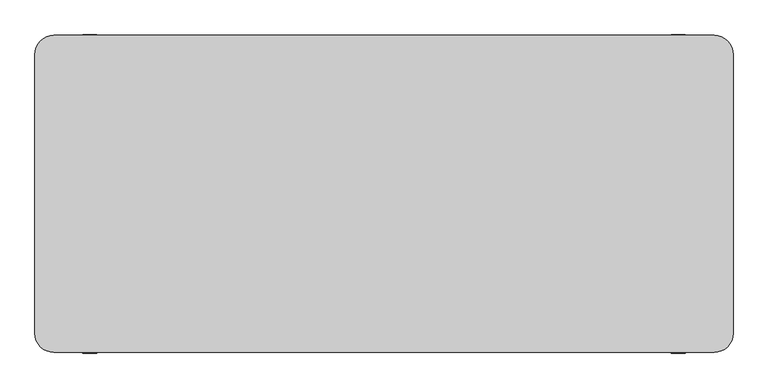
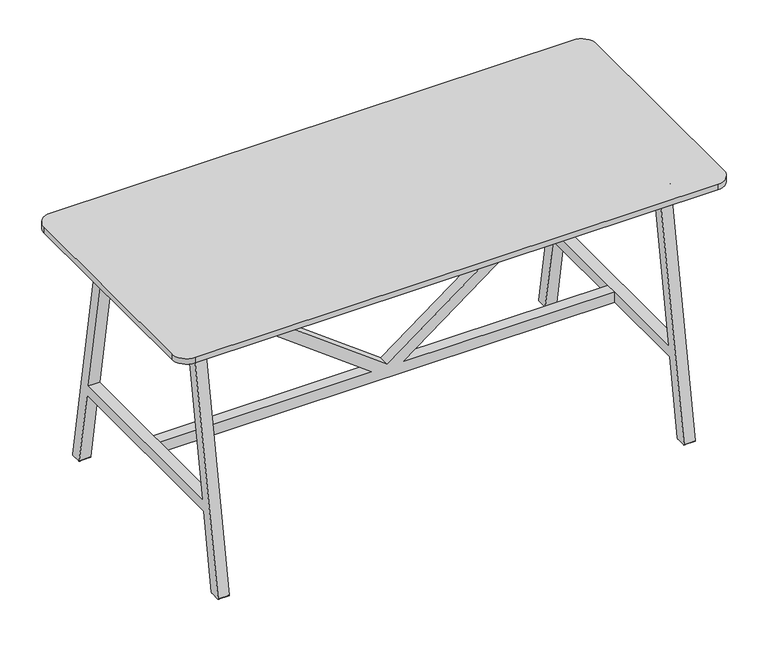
"""IFC4 building model written with IfcOpenShell, lengths in millimetres: furniture geometry, Furniture-Chair-LyndonDesign-Agent_AGE_13 : Furniture-Chair-LyndonDesign-Agent_AGE_13."""

from ifc_helpers import new_model, si_unit, point, frame, frame_2d, origin, place, context, project, spatial, polyline, circle_curve, trimmed, segment, composite_curve, outline, extrude, source, transform, mapped, element, save


def furniture_c897c1bd(model_context):
    return source(origin(), model_context, "Body", "SweptSolid", [
        extrude(outline(composite_curve([segment(trimmed(circle_curve(frame_2d((378.4999922, 1029.9999908)), 44.0000027), [point((422.3178004, 1026.0))], [point((378.4999922, 985.9999881))], False, "CARTESIAN"), True, "CONTINUOUS"), segment(polyline([(378.4999922, 985.9999881), (342.6314965, 985.9999881)]), True, "CONTINUOUS"), segment(trimmed(circle_curve(frame_2d((342.6314965, 973.9754464)), 12.0245417), [point((342.6314965, 985.9999881))], [point((330.628705, 973.2525357))], True, "CARTESIAN"), True, "CONTINUOUS"), segment(polyline([(330.628705, 973.2525357), (501.8254954, 2.3472964)]), True, "CONTINUOUS"), segment(trimmed(circle_curve(frame_2d((499.8558799, 2.0)), 2.0), [point((501.8254954, 2.3472964))], [point((499.8558799, 0.0))], False, "CARTESIAN"), True, "CONTINUOUS"), segment(polyline([(499.8558799, 0.0), (459.882537, 0.0)]), True, "CONTINUOUS"), segment(trimmed(circle_curve(frame_2d((459.882537, 3.9773014)), 3.9773014), [point((459.882537, 0.0))], [point((455.9656598, 3.2866503))], False, "CARTESIAN"), True, "CONTINUOUS"), segment(polyline([(455.9656598, 3.2866503), (401.7074925, 311.000006), (-401.6746968, 311.000006), (-455.9635188, 3.3049865)]), True, "CONTINUOUS"), segment(trimmed(circle_curve(frame_2d((-459.9026756, 4.0)), 4.0), [point((-455.9635188, 3.3049865))], [point((-459.9026756, 0.0))], False, "CARTESIAN"), True, "CONTINUOUS"), segment(polyline([(-459.9026756, 0.0), (-499.8558895, 0.0)]), True, "CONTINUOUS"), segment(trimmed(circle_curve(frame_2d((-499.8558895, 2.0)), 2.0), [point((-499.8558895, 0.0))], [point((-501.825505, 2.3472964))], False, "CARTESIAN"), True, "CONTINUOUS"), segment(polyline([(-501.825505, 2.3472964), (-330.5012459, 973.9754464)]), True, "CONTINUOUS"), segment(trimmed(circle_curve(frame_2d((-342.5257877, 973.9754464)), 12.0245417), [point((-330.5012459, 973.9754464))], [point((-342.5257877, 985.9999881))], True, "CARTESIAN"), True, "CONTINUOUS"), segment(polyline([(-342.5257877, 985.9999881), (-378.3942834, 985.9999881)]), True, "CONTINUOUS"), segment(trimmed(circle_curve(frame_2d((-378.3942834, 1029.9999908)), 44.0000027), [point((-378.3942834, 985.9999881))], [point((-422.2120915, 1026.0))], False, "CARTESIAN"), True, "CONTINUOUS"), segment(polyline([(-422.2120915, 1026.0), (422.3178004, 1026.0)]), True, "CONTINUOUS")], self_intersect=False), holes=[composite_curve([segment(trimmed(circle_curve(frame_2d((-267.8942867, 968.4119913)), 17.5879967), [point((-267.8942867, 985.9999881))], [point((-284.8733265, 973.0000012))], True, "CARTESIAN"), True, "CONTINUOUS"), segment(polyline([(-284.8733265, 973.0000012), (-393.7350289, 355.9999928), (393.7727807, 355.9999928), (284.9790241, 973.0000428)]), True, "CONTINUOUS"), segment(trimmed(circle_curve(frame_2d((267.9999955, 968.4119913)), 17.5879967), [point((284.9790241, 973.0000428))], [point((267.9999955, 985.9999881))], True, "CARTESIAN"), True, "CONTINUOUS"), segment(polyline([(267.9999955, 985.9999881), (-267.8942867, 985.9999881)]), True, "CONTINUOUS")], self_intersect=False)]), frame((-950.0000834, 0.0, 0.0), z_axis=(1.0, 0.0, 0.0), x_axis=(0.0, 1.0, 0.0)), (0.0, 0.0, 1.0), 45.0),
        extrude(outline(composite_curve([segment(trimmed(circle_curve(frame_2d((378.4999922, 1029.9999908)), 44.0000027), [point((422.3178004, 1026.0))], [point((378.4999922, 985.9999881))], False, "CARTESIAN"), True, "CONTINUOUS"), segment(polyline([(378.4999922, 985.9999881), (342.6314965, 985.9999881)]), True, "CONTINUOUS"), segment(trimmed(circle_curve(frame_2d((342.6314965, 973.9754464)), 12.0245417), [point((342.6314965, 985.9999881))], [point((330.628705, 973.2525357))], True, "CARTESIAN"), True, "CONTINUOUS"), segment(polyline([(330.628705, 973.2525357), (501.8254954, 2.3472964)]), True, "CONTINUOUS"), segment(trimmed(circle_curve(frame_2d((499.8558799, 2.0)), 2.0), [point((501.8254954, 2.3472964))], [point((499.8558799, 0.0))], False, "CARTESIAN"), True, "CONTINUOUS"), segment(polyline([(499.8558799, 0.0), (459.882537, 0.0)]), True, "CONTINUOUS"), segment(trimmed(circle_curve(frame_2d((459.882537, 3.9773014)), 3.9773014), [point((459.882537, 0.0))], [point((455.9656598, 3.2866503))], False, "CARTESIAN"), True, "CONTINUOUS"), segment(polyline([(455.9656598, 3.2866503), (401.7074925, 311.000006), (-401.6746968, 311.000006), (-455.9635188, 3.3049865)]), True, "CONTINUOUS"), segment(trimmed(circle_curve(frame_2d((-459.9026756, 4.0)), 4.0), [point((-455.9635188, 3.3049865))], [point((-459.9026756, 0.0))], False, "CARTESIAN"), True, "CONTINUOUS"), segment(polyline([(-459.9026756, 0.0), (-499.8558895, 0.0)]), True, "CONTINUOUS"), segment(trimmed(circle_curve(frame_2d((-499.8558895, 2.0)), 2.0), [point((-499.8558895, 0.0))], [point((-501.825505, 2.3472964))], False, "CARTESIAN"), True, "CONTINUOUS"), segment(polyline([(-501.825505, 2.3472964), (-330.5012459, 973.9754464)]), True, "CONTINUOUS"), segment(trimmed(circle_curve(frame_2d((-342.5257877, 973.9754464)), 12.0245417), [point((-330.5012459, 973.9754464))], [point((-342.5257877, 985.9999881))], True, "CARTESIAN"), True, "CONTINUOUS"), segment(polyline([(-342.5257877, 985.9999881), (-378.3942834, 985.9999881)]), True, "CONTINUOUS"), segment(trimmed(circle_curve(frame_2d((-378.3942834, 1029.9999908)), 44.0000027), [point((-378.3942834, 985.9999881))], [point((-422.2120915, 1026.0))], False, "CARTESIAN"), True, "CONTINUOUS"), segment(polyline([(-422.2120915, 1026.0), (422.3178004, 1026.0)]), True, "CONTINUOUS")], self_intersect=False), holes=[composite_curve([segment(trimmed(circle_curve(frame_2d((-267.8942867, 968.4119913)), 17.5879967), [point((-267.8942867, 985.9999881))], [point((-284.8733265, 973.0000012))], True, "CARTESIAN"), True, "CONTINUOUS"), segment(polyline([(-284.8733265, 973.0000012), (-393.7350289, 355.9999928), (393.7727807, 355.9999928), (284.9790241, 973.0000428)]), True, "CONTINUOUS"), segment(trimmed(circle_curve(frame_2d((267.9999955, 968.4119913)), 17.5879967), [point((284.9790241, 973.0000428))], [point((267.9999955, 985.9999881))], True, "CARTESIAN"), True, "CONTINUOUS"), segment(polyline([(267.9999955, 985.9999881), (-267.8942867, 985.9999881)]), True, "CONTINUOUS")], self_intersect=False)]), frame((905.0000834, 0.0, 0.0), z_axis=(1.0, 0.0, 0.0), x_axis=(0.0, 1.0, 0.0)), (0.0, 0.0, 1.0), 45.0),
        extrude(outline(composite_curve([segment(polyline([(-1040.0, 500.0), (1040.0, 500.0)]), True, "CONTINUOUS"), segment(trimmed(circle_curve(frame_2d((1040.0, 440.0)), 60.0), [point((1040.0, 500.0))], [point((1100.0, 440.0))], False, "CARTESIAN"), True, "CONTINUOUS"), segment(polyline([(1100.0, 440.0), (1100.0, -440.0)]), True, "CONTINUOUS"), segment(trimmed(circle_curve(frame_2d((1040.0, -440.0)), 60.0), [point((1100.0, -440.0))], [point((1040.0, -500.0))], False, "CARTESIAN"), True, "CONTINUOUS"), segment(polyline([(1040.0, -500.0), (-1040.0, -500.0)]), True, "CONTINUOUS"), segment(trimmed(circle_curve(frame_2d((-1040.0, -440.0)), 60.0), [point((-1040.0, -500.0))], [point((-1100.0, -440.0))], False, "CARTESIAN"), True, "CONTINUOUS"), segment(polyline([(-1100.0, -440.0), (-1100.0, 440.0)]), True, "CONTINUOUS"), segment(trimmed(circle_curve(frame_2d((-1040.0, 440.0)), 60.0), [point((-1100.0, 440.0))], [point((-1040.0, 500.0))], False, "CARTESIAN"), True, "CONTINUOUS")], self_intersect=False)), frame((0.0, 0.0, 1026.0), z_axis=(0.0, 0.0, 1.0), x_axis=(1.0, 0.0, 0.0)), (0.0, 0.0, 1.0), 24.0),
        extrude(outline(polyline([(-325.5425259, 946.4629989), (-311.5180065, 1026.0), (-287.1477679, 1026.0), (-301.907585, 942.292918), (-325.5425259, 946.4629989)])), frame((-905.0000834, 0.0, 0.0), z_axis=(1.0, 0.0, 0.0), x_axis=(0.0, 1.0, 0.0)), (0.0, 0.0, 1.0), 1810.0001669),
        extrude(outline(polyline([(325.5425259, 946.4629989), (301.907585, 942.292918), (287.1477679, 1026.0), (311.5180065, 1026.0), (325.5425259, 946.4629989)])), frame((-905.0000834, 0.0, 0.0), z_axis=(1.0, 0.0, 0.0), x_axis=(0.0, 1.0, 0.0)), (0.0, 0.0, 1.0), 1810.0001669),
        extrude(outline(polyline([(355.9999928, -61.2429203), (355.9999928, -905.0000834), (311.000006, -905.0000834), (311.000006, 905.0000834), (355.9999928, 905.0000834), (355.9999928, 61.2429203), (985.9999881, 905.0000834), (1026.0, 905.0000834), (1026.0, 883.6308316), (366.2279188, 0.0), (1026.0, -883.6308316), (1026.0, -905.0000834), (985.9999881, -905.0000834), (355.9999928, -61.2429203)])), frame((0.0, -22.5, 0.0), z_axis=(0.0, 1.0, 0.0), x_axis=(0.0, 0.0, 1.0)), (0.0, 0.0, 1.0), 45.0),
    ])


if __name__ == "__main__":
    model = new_model("IFC4")
    model_context = context("Model", 3, world=origin())
    ifc_project = project(units=[si_unit("LENGTHUNIT", "METRE", prefix="MILLI")], contexts=[model_context])
    site = spatial("IfcSite", under=ifc_project)
    building = spatial("IfcBuilding", under=site)
    placement = place(None, origin())
    furniture_shape = furniture_c897c1bd(model_context)
    element("IfcFurniture", 1, ObjectType="Furniture-Chair-LyndonDesign-Agent_AGE_13 : Furniture-Chair-LyndonDesign-Agent_AGE_13", at=placement, inside=building, context=model_context, shape_type="MappedRepresentation", body=[
        mapped(furniture_shape, transform((0.0, 0.0, 0.0), x_axis=(1.0, 0.0, 0.0), y_axis=(0.0, 1.0, 0.0), z_axis=(0.0, 0.0, 1.0))),
    ])
    save(model, "model.ifc")
